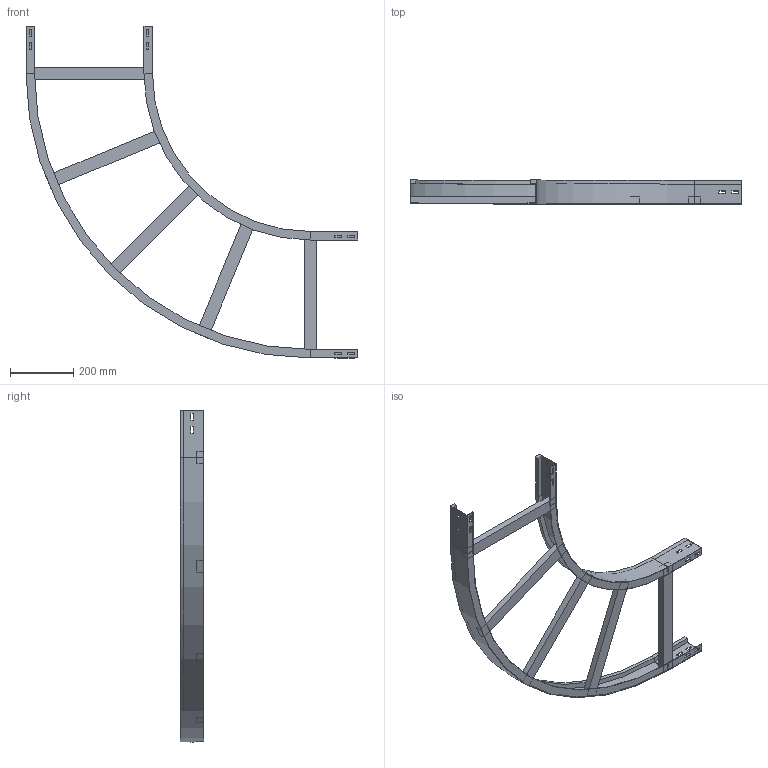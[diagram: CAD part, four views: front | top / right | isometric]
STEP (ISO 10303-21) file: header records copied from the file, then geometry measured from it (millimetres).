
FILE_DESCRIPTION (( 'STEP AP214' ), '1' );
FILE_NAME ('10B5C400.step', '2025-02-21T15:25:48', ( '' ), ( '' ), 'SwSTEP 2.0', 'SolidWorks 2023', '' );
FILE_SCHEMA (( 'AUTOMOTIVE_DESIGN' ));
Length unit declared in the file: millimetre
Products named in the file (4): A2_LONGH.ESTERNO 90°_H75_R500+400; 10B5C400; A2_LONGH.INTERNO 90°_H75_R500; TRAVERSINO_400
Assembly tree (7 placements, depth 2):
  10B5C400
    A2_LONGH.INTERNO 90°_H75_R500
    A2_LONGH.ESTERNO 90°_H75_R500+400
    TRAVERSINO_400  x5
Bounding box: 1050 x 75 x 1050 mm (x, y, z)
Volume: 2696125 mm3; surface area: 906767.1 mm2
Topology: 7 solids, 7 shells, 146 faces, 364 edges, 232 vertices
Faces by surface type: plane 138, cylinder 8
Entity records: 3837 total; most frequent: CARTESIAN_POINT 648, ORIENTED_EDGE 632, DIRECTION 596, EDGE_CURVE 316, VECTOR 300, LINE 300, VERTEX_POINT 200, EDGE_LOOP 154
